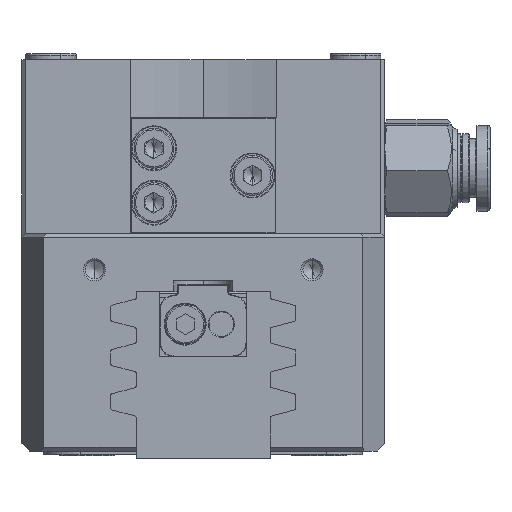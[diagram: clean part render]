
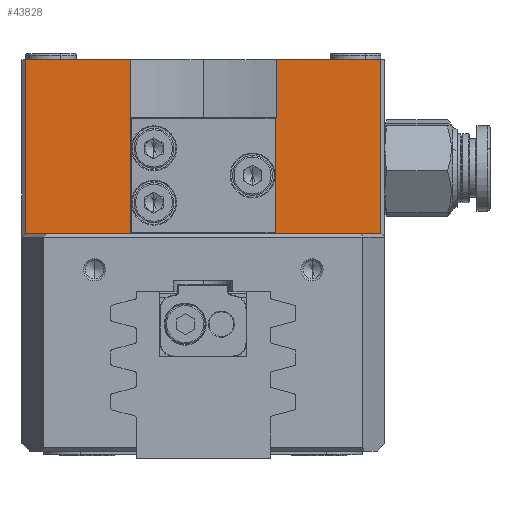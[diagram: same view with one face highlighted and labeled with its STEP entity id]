
A CAD part, left-side view. The second image highlights one B-rep face of the part: STEP entity #43828.
In plain terms, the highlighted planar face has unit normal (-1, 0, 0).
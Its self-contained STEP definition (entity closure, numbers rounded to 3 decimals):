
#143 = ORIENTED_EDGE ( 'NONE', *, *, #42909, .T. ) ;
#184 = ORIENTED_EDGE ( 'NONE', *, *, #8116, .T. ) ;
#865 = VECTOR ( 'NONE', #23599, 1000. ) ;
#2201 = ORIENTED_EDGE ( 'NONE', *, *, #42767, .T. ) ;
#2339 = VERTEX_POINT ( 'NONE', #29548 ) ;
#2805 = DIRECTION ( 'NONE',  ( 0., 0., 1. ) ) ;
#2899 = EDGE_CURVE ( 'NONE', #2339, #25662, #45386, .T. ) ;
#3217 = ORIENTED_EDGE ( 'NONE', *, *, #35306, .T. ) ;
#3451 = CARTESIAN_POINT ( 'NONE',  ( -51.647, 0.441, 18.9 ) ) ;
#4107 = CARTESIAN_POINT ( 'NONE',  ( -51.647, -14.159, 27. ) ) ;
#4469 = DIRECTION ( 'NONE',  ( 0., 0., 1. ) ) ;
#4679 = EDGE_LOOP ( 'NONE', ( #143, #2201, #13154, #28506 ) ) ;
#5920 = CARTESIAN_POINT ( 'NONE',  ( -51.647, 20.241, 18.9 ) ) ;
#6752 = CARTESIAN_POINT ( 'NONE',  ( -51.647, -20.383, 3. ) ) ;
#7227 = DIRECTION ( 'NONE',  ( 0., 0., -1. ) ) ;
#8116 = EDGE_CURVE ( 'NONE', #19736, #15361, #26259, .T. ) ;
#8256 = LINE ( 'NONE', #26717, #8815 ) ;
#8304 = LINE ( 'NONE', #26211, #30119 ) ;
#8733 = CARTESIAN_POINT ( 'NONE',  ( -51.647, 20.241, 19. ) ) ;
#8815 = VECTOR ( 'NONE', #7227, 1000. ) ;
#9902 = DIRECTION ( 'NONE',  ( 0., 1., 0. ) ) ;
#10193 = VECTOR ( 'NONE', #44460, 1000. ) ;
#10626 = DIRECTION ( 'NONE',  ( 0., 0., -1. ) ) ;
#10671 = DIRECTION ( 'NONE',  ( -1., 0., 0. ) ) ;
#11449 = VECTOR ( 'NONE', #48994, 1000. ) ;
#11665 = VERTEX_POINT ( 'NONE', #15059 ) ;
#11681 = CARTESIAN_POINT ( 'NONE',  ( -51.647, 20.388, 19. ) ) ;
#12015 = CARTESIAN_POINT ( 'NONE',  ( -51.647, 10.341, 27. ) ) ;
#12129 = CARTESIAN_POINT ( 'NONE',  ( -51.647, 0.341, 18.9 ) ) ;
#12895 = LINE ( 'NONE', #28924, #27426 ) ;
#13154 = ORIENTED_EDGE ( 'NONE', *, *, #34848, .T. ) ;
#13327 = VECTOR ( 'NONE', #35007, 1000. ) ;
#14047 = CARTESIAN_POINT ( 'NONE',  ( -51.647, 20.341, 3.1 ) ) ;
#14073 = VECTOR ( 'NONE', #10626, 1000. ) ;
#14738 = EDGE_CURVE ( 'NONE', #2339, #33285, #8304, .T. ) ;
#14963 = EDGE_CURVE ( 'NONE', #15865, #25390, #30074, .T. ) ;
#15059 = CARTESIAN_POINT ( 'NONE',  ( -51.647, 34.841, 3. ) ) ;
#15147 = CARTESIAN_POINT ( 'NONE',  ( -51.647, 0.441, 3.1 ) ) ;
#15361 = VERTEX_POINT ( 'NONE', #4107 ) ;
#15644 = CARTESIAN_POINT ( 'NONE',  ( -51.647, 20.388, 27. ) ) ;
#15865 = VERTEX_POINT ( 'NONE', #22517 ) ;
#16963 = VERTEX_POINT ( 'NONE', #30863 ) ;
#17986 = VERTEX_POINT ( 'NONE', #15147 ) ;
#18100 = ORIENTED_EDGE ( 'NONE', *, *, #26075, .F. ) ;
#18283 = ORIENTED_EDGE ( 'NONE', *, *, #45298, .T. ) ;
#19736 = VERTEX_POINT ( 'NONE', #23390 ) ;
#20920 = LINE ( 'NONE', #12129, #865 ) ;
#21919 = EDGE_LOOP ( 'NONE', ( #3217, #184, #18283, #36248, #33327, #18100, #26378, #47200 ) ) ;
#22517 = CARTESIAN_POINT ( 'NONE',  ( -51.647, 20.241, 3.1 ) ) ;
#22593 = VECTOR ( 'NONE', #38821, 1000. ) ;
#23390 = CARTESIAN_POINT ( 'NONE',  ( -51.647, -14.159, 3. ) ) ;
#23599 = DIRECTION ( 'NONE',  ( 0., -1., 0. ) ) ;
#25390 = VERTEX_POINT ( 'NONE', #5920 ) ;
#25662 = VERTEX_POINT ( 'NONE', #11681 ) ;
#25913 = EDGE_CURVE ( 'NONE', #16963, #11665, #12895, .T. ) ;
#26075 = EDGE_CURVE ( 'NONE', #47246, #25662, #43677, .T. ) ;
#26211 = CARTESIAN_POINT ( 'NONE',  ( -51.647, 0.294, 19. ) ) ;
#26259 = LINE ( 'NONE', #27030, #22593 ) ;
#26378 = ORIENTED_EDGE ( 'NONE', *, *, #50192, .T. ) ;
#26650 = VECTOR ( 'NONE', #9902, 1000. ) ;
#26717 = CARTESIAN_POINT ( 'NONE',  ( -51.647, 0.441, 3. ) ) ;
#27030 = CARTESIAN_POINT ( 'NONE',  ( -51.647, -14.159, 3. ) ) ;
#27426 = VECTOR ( 'NONE', #28763, 1000. ) ;
#28506 = ORIENTED_EDGE ( 'NONE', *, *, #14963, .T. ) ;
#28763 = DIRECTION ( 'NONE',  ( 0., 0., -1. ) ) ;
#28924 = CARTESIAN_POINT ( 'NONE',  ( -51.647, 34.841, 3. ) ) ;
#29548 = CARTESIAN_POINT ( 'NONE',  ( -51.647, 0.294, 19. ) ) ;
#29619 = AXIS2_PLACEMENT_3D ( 'NONE', #6752, #10671, #45649 ) ;
#29807 = PLANE ( 'NONE',  #29619 ) ;
#30074 = LINE ( 'NONE', #8733, #31254 ) ;
#30119 = VECTOR ( 'NONE', #2805, 1000. ) ;
#30863 = CARTESIAN_POINT ( 'NONE',  ( -51.647, 34.841, 27. ) ) ;
#31254 = VECTOR ( 'NONE', #4469, 1000. ) ;
#33285 = VERTEX_POINT ( 'NONE', #47845 ) ;
#33327 = ORIENTED_EDGE ( 'NONE', *, *, #2899, .T. ) ;
#33787 = CARTESIAN_POINT ( 'NONE',  ( -51.647, 20.388, 19. ) ) ;
#34410 = LINE ( 'NONE', #48188, #10193 ) ;
#34436 = LINE ( 'NONE', #14047, #11449 ) ;
#34848 = EDGE_CURVE ( 'NONE', #17986, #15865, #34436, .T. ) ;
#35007 = DIRECTION ( 'NONE',  ( 0., 1., 0. ) ) ;
#35306 = EDGE_CURVE ( 'NONE', #11665, #19736, #45091, .T. ) ;
#36248 = ORIENTED_EDGE ( 'NONE', *, *, #14738, .F. ) ;
#36465 = CARTESIAN_POINT ( 'NONE',  ( -51.647, -20.383, 3. ) ) ;
#37827 = VECTOR ( 'NONE', #48136, 1000. ) ;
#38729 = LINE ( 'NONE', #12015, #13327 ) ;
#38821 = DIRECTION ( 'NONE',  ( 0., 0., 1. ) ) ;
#38994 = VERTEX_POINT ( 'NONE', #3451 ) ;
#39984 = CARTESIAN_POINT ( 'NONE',  ( -51.647, -20.383, 19. ) ) ;
#40100 = FACE_OUTER_BOUND ( 'NONE', #21919, .T. ) ;
#41310 = FACE_BOUND ( 'NONE', #4679, .T. ) ;
#42767 = EDGE_CURVE ( 'NONE', #38994, #17986, #8256, .T. ) ;
#42909 = EDGE_CURVE ( 'NONE', #25390, #38994, #20920, .T. ) ;
#43677 = LINE ( 'NONE', #33787, #14073 ) ;
#43828 = ADVANCED_FACE ( 'NONE', ( #41310, #40100 ), #29807, .T. ) ;
#44460 = DIRECTION ( 'NONE',  ( 0., 1., 0. ) ) ;
#45091 = LINE ( 'NONE', #36465, #37827 ) ;
#45298 = EDGE_CURVE ( 'NONE', #15361, #33285, #34410, .T. ) ;
#45386 = LINE ( 'NONE', #39984, #26650 ) ;
#45649 = DIRECTION ( 'NONE',  ( 0., 0., 1. ) ) ;
#47200 = ORIENTED_EDGE ( 'NONE', *, *, #25913, .T. ) ;
#47246 = VERTEX_POINT ( 'NONE', #15644 ) ;
#47845 = CARTESIAN_POINT ( 'NONE',  ( -51.647, 0.294, 27. ) ) ;
#48136 = DIRECTION ( 'NONE',  ( 0., -1., 0. ) ) ;
#48188 = CARTESIAN_POINT ( 'NONE',  ( -51.647, 10.341, 27. ) ) ;
#48994 = DIRECTION ( 'NONE',  ( 0., 1., 0. ) ) ;
#50192 = EDGE_CURVE ( 'NONE', #47246, #16963, #38729, .T. ) ;
